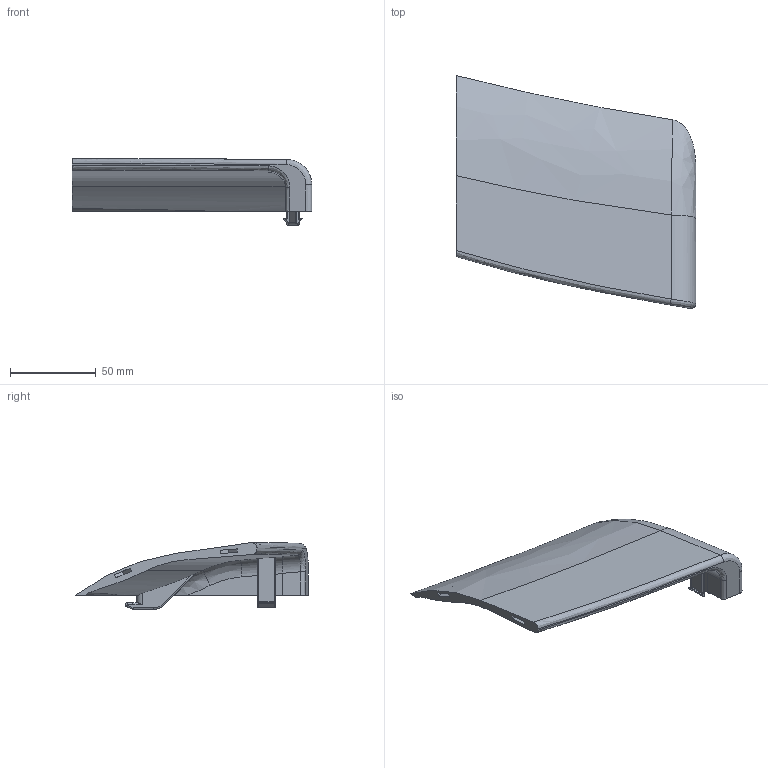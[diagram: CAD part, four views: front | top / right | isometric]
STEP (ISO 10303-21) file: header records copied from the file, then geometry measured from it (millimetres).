
FILE_DESCRIPTION(/* description */ (''),/* implementation_level */ '2;1');
FILE_NAME(/* name */ 'Snow_cap_regular_right_in.step',/* time_stamp */ '2025-12-14T00:30:13+02:00',/* author */ (''),/* organization */ (''),/* preprocessor_version */ 'ST-DEVELOPER v20.1',/* originating_system */ 'Autodesk Translation Framework v14.21.0.0',/* authorisation */ '');
FILE_SCHEMA (('AUTOMOTIVE_DESIGN { 1 0 10303 214 3 1 1 }'));
Length unit declared in the file: millimetre
Products named in the file (1): Snow_cap_regular
Bounding box: 140.1 x 136.09 x 39.14 mm (x, y, z)
Volume: 101597.5 mm3; surface area: 37911.1 mm2
Topology: 1 solids, 1 shells, 120 faces, 299 edges, 183 vertices
Faces by surface type: cylinder 46, plane 40, bspline 18, torus 12, sphere 4
Entity records: 4321 total; most frequent: CARTESIAN_POINT 1508, ORIENTED_EDGE 598, DIRECTION 561, EDGE_CURVE 299, AXIS2_PLACEMENT_3D 209, VERTEX_POINT 183, LINE 143, VECTOR 143
